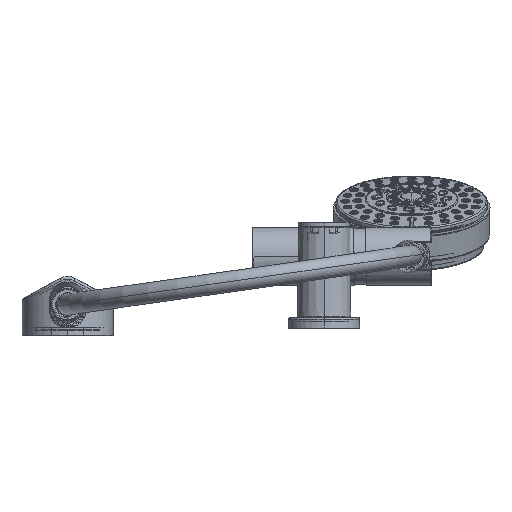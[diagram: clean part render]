
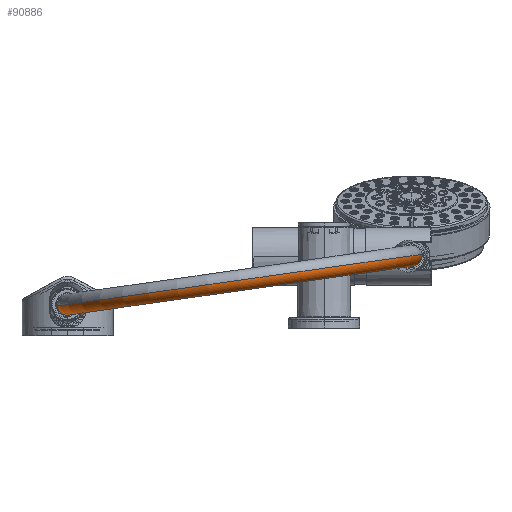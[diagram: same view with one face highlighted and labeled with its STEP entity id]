
A CAD part, front view. The second image highlights one B-rep face of the part: STEP entity #90886.
In plain terms, the highlighted toroidal (fillet/blend) face has major radius 116.457 mm and minor radius 7 mm.
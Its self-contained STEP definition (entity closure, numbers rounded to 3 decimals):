
#1417 = ORIENTED_EDGE ( 'NONE', *, *, #54497, .F. ) ;
#2494 = ORIENTED_EDGE ( 'NONE', *, *, #11961, .T. ) ;
#4550 = CARTESIAN_POINT ( 'NONE',  ( 65.535, -199.481, 1.474 ) ) ;
#8766 = EDGE_CURVE ( 'NONE', #66645, #86906, #93752, .T. ) ;
#11866 = ORIENTED_EDGE ( 'NONE', *, *, #16909, .T. ) ;
#11961 = EDGE_CURVE ( 'NONE', #94171, #15193, #54333, .T. ) ;
#14029 = CARTESIAN_POINT ( 'NONE',  ( 58.605, -199.481, 0.491 ) ) ;
#15193 = VERTEX_POINT ( 'NONE', #52354 ) ;
#15639 = CARTESIAN_POINT ( 'NONE',  ( -56.698, -199.481, -15.866 ) ) ;
#16909 = EDGE_CURVE ( 'NONE', #52432, #86906, #76084, .T. ) ;
#18780 = DIRECTION ( 'NONE',  ( 0., -1., 0. ) ) ;
#20958 = CARTESIAN_POINT ( 'NONE',  ( -172., -199.481, -32.223 ) ) ;
#26571 = DIRECTION ( 'NONE',  ( -0.14, 0., 0.99 ) ) ;
#27440 = CARTESIAN_POINT ( 'NONE',  ( -165., -199.481, -32.223 ) ) ;
#28152 = CIRCLE ( 'NONE', #54694, 7. ) ;
#28734 = CARTESIAN_POINT ( 'NONE',  ( -165.069, -199.481, -31.24 ) ) ;
#28744 = AXIS2_PLACEMENT_3D ( 'NONE', #20958, #66870, #58081 ) ;
#29345 = DIRECTION ( 'NONE',  ( 0.99, 0., 0.14 ) ) ;
#30687 = EDGE_CURVE ( 'NONE', #15193, #52432, #28152, .T. ) ;
#31756 = TOROIDAL_SURFACE ( 'NONE', #39558, 116.457, 7. ) ;
#32803 = DIRECTION ( 'NONE',  ( 0.99, 0., 0.14 ) ) ;
#36540 = DIRECTION ( 'NONE',  ( 0.278, 0., -0.961 ) ) ;
#39558 = AXIS2_PLACEMENT_3D ( 'NONE', #40139, #69956, #32803 ) ;
#40139 = CARTESIAN_POINT ( 'NONE',  ( -56.698, -199.481, -15.866 ) ) ;
#42424 = CARTESIAN_POINT ( 'NONE',  ( -172., -199.481, -32.223 ) ) ;
#43780 = DIRECTION ( 'NONE',  ( 0., 0., -1. ) ) ;
#49742 = CARTESIAN_POINT ( 'NONE',  ( -178.931, -199.481, -33.206 ) ) ;
#50248 = DIRECTION ( 'NONE',  ( 0., 1., 0. ) ) ;
#52354 = CARTESIAN_POINT ( 'NONE',  ( 51.674, -199.481, -0.492 ) ) ;
#52432 = VERTEX_POINT ( 'NONE', #78693 ) ;
#54333 = CIRCLE ( 'NONE', #93394, 109.457 ) ;
#54497 = EDGE_CURVE ( 'NONE', #71319, #66645, #72921, .T. ) ;
#54694 = AXIS2_PLACEMENT_3D ( 'NONE', #14029, #92839, #43780 ) ;
#55915 = DIRECTION ( 'NONE',  ( 0., 0., -1. ) ) ;
#56344 = AXIS2_PLACEMENT_3D ( 'NONE', #94927, #26571, #93010 ) ;
#58081 = DIRECTION ( 'NONE',  ( 0.278, 0., -0.961 ) ) ;
#60119 = EDGE_CURVE ( 'NONE', #94171, #71319, #83275, .T. ) ;
#60607 = ORIENTED_EDGE ( 'NONE', *, *, #60119, .F. ) ;
#62028 = ORIENTED_EDGE ( 'NONE', *, *, #8766, .F. ) ;
#66645 = VERTEX_POINT ( 'NONE', #49742 ) ;
#66789 = EDGE_LOOP ( 'NONE', ( #62028, #1417, #60607, #2494, #96475, #11866 ) ) ;
#66870 = DIRECTION ( 'NONE',  ( 0., 1., 0. ) ) ;
#69779 = AXIS2_PLACEMENT_3D ( 'NONE', #42424, #50248, #36540 ) ;
#69956 = DIRECTION ( 'NONE',  ( -0.14, 0., 0.99 ) ) ;
#71319 = VERTEX_POINT ( 'NONE', #27440 ) ;
#72921 = CIRCLE ( 'NONE', #69779, 7. ) ;
#76084 = CIRCLE ( 'NONE', #94826, 7. ) ;
#77278 = FACE_OUTER_BOUND ( 'NONE', #66789, .T. ) ;
#77410 = CARTESIAN_POINT ( 'NONE',  ( 58.605, -199.481, 0.491 ) ) ;
#78693 = CARTESIAN_POINT ( 'NONE',  ( 65.605, -199.481, 0.491 ) ) ;
#83275 = CIRCLE ( 'NONE', #28744, 7. ) ;
#86906 = VERTEX_POINT ( 'NONE', #4550 ) ;
#90886 = ADVANCED_FACE ( 'NONE', ( #77278 ), #31756, .T. ) ;
#92839 = DIRECTION ( 'NONE',  ( 0., -1., 0. ) ) ;
#93010 = DIRECTION ( 'NONE',  ( 0.99, 0., 0.14 ) ) ;
#93394 = AXIS2_PLACEMENT_3D ( 'NONE', #15639, #96271, #29345 ) ;
#93752 = CIRCLE ( 'NONE', #56344, 123.457 ) ;
#94171 = VERTEX_POINT ( 'NONE', #28734 ) ;
#94826 = AXIS2_PLACEMENT_3D ( 'NONE', #77410, #18780, #55915 ) ;
#94927 = CARTESIAN_POINT ( 'NONE',  ( -56.698, -199.481, -15.866 ) ) ;
#96271 = DIRECTION ( 'NONE',  ( -0.14, 0., 0.99 ) ) ;
#96475 = ORIENTED_EDGE ( 'NONE', *, *, #30687, .T. ) ;
